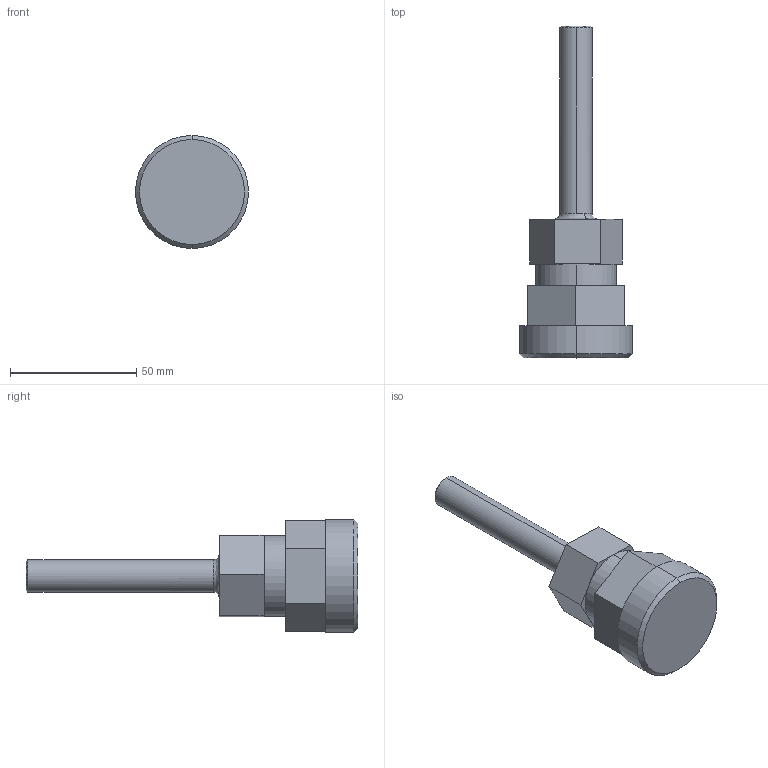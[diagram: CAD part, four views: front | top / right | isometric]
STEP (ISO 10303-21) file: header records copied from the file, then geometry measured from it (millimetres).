
FILE_DESCRIPTION (( 'STEP AP214' ), '1' );
FILE_NAME ('08-tube-out-with-top-mount-adapter.STEP', '2012-11-27T21:07:25', ( '' ), ( '' ), 'SwSTEP 2.0', 'SolidWorks 2012', '' );
FILE_SCHEMA (( 'AUTOMOTIVE_DESIGN' ));
Length unit declared in the file: inch
Products named in the file (1): 08-tube-out-with-top-mount-adapter
Bounding box: 44.7 x 131.24 x 44.7 mm (x, y, z)
Volume: 71711 mm3; surface area: 12843.6 mm2
Topology: 1 solids, 1 shells, 30 faces, 68 edges, 44 vertices
Faces by surface type: plane 18, cylinder 6, cone 4, bspline 2
Entity records: 1372 total; most frequent: CARTESIAN_POINT 395, DIRECTION 140, ORIENTED_EDGE 136, EDGE_CURVE 68, AXIS2_PLACEMENT_3D 47, VECTOR 46, LINE 46, VERTEX_POINT 44
